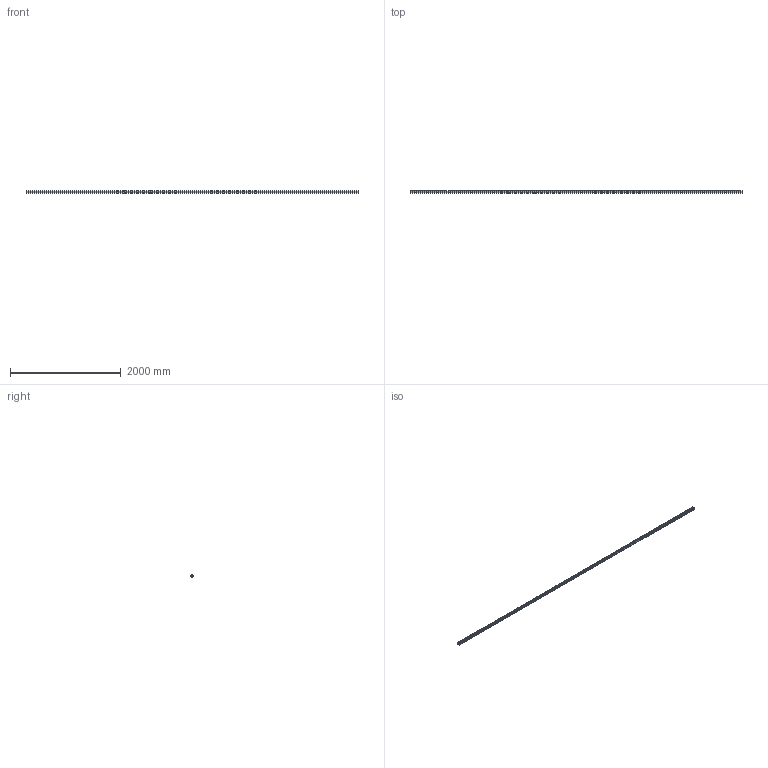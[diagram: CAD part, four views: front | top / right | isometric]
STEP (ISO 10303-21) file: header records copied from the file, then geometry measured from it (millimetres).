
FILE_DESCRIPTION (( 'STEP AP203' ), '1' );
FILE_NAME ('20206300_Klemmprofil 8 40x40 mit Klemmleiste.step', '2021-06-19T07:53:04', ( '' ), ( '' ), 'SwSTEP 2.0', 'SolidWorks 2021', '' );
FILE_SCHEMA (( 'CONFIG_CONTROL_DESIGN' ));
Length unit declared in the file: millimetre
Products named in the file (4): DIN 912 M6 x 20 --- 20S_DIN 912 M6 x 20 --- 20S; 20206300 Klemmleiste; 20206300_Klemmprofil 8 40x40 mit Klemmleiste; 20206300 Klemmprofil 8 40x40 mit Klemmleiste_Default<Wie bearbeitet>
Assembly tree (31 placements, depth 2):
  20206300_Klemmprofil 8 40x40 mit Klemmleiste
    20206300 Klemmprofil 8 40x40 mit Klemmleiste_Default<Wie bearbeitet>
    20206300 Klemmleiste
    DIN 912 M6 x 20 --- 20S_DIN 912 M6 x 20 --- 20S  x29
Bounding box: 6000 x 40 x 40 mm (x, y, z)
Volume: 5148891.8 mm3; surface area: 2837194.9 mm2
Topology: 31 solids, 31 shells, 4263 faces, 11298 edges, 6981 vertices
Faces by surface type: cone 2088, cylinder 1391, plane 668, torus 116
Entity records: 26338 total; most frequent: CARTESIAN_POINT 7054, ORIENTED_EDGE 4112, DIRECTION 3676, EDGE_CURVE 2056, AXIS2_PLACEMENT_3D 1341, VERTEX_POINT 1297, LINE 994, VECTOR 994
